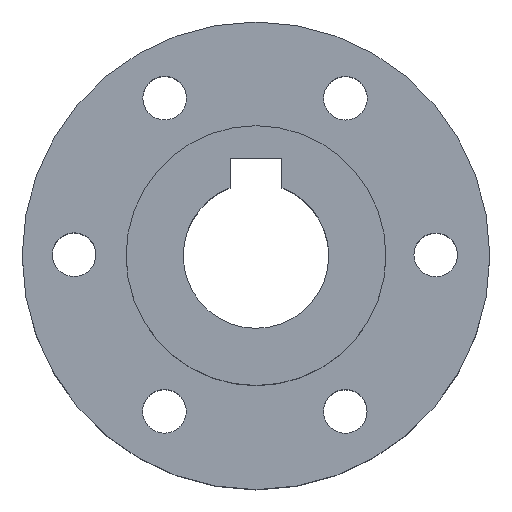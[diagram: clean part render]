
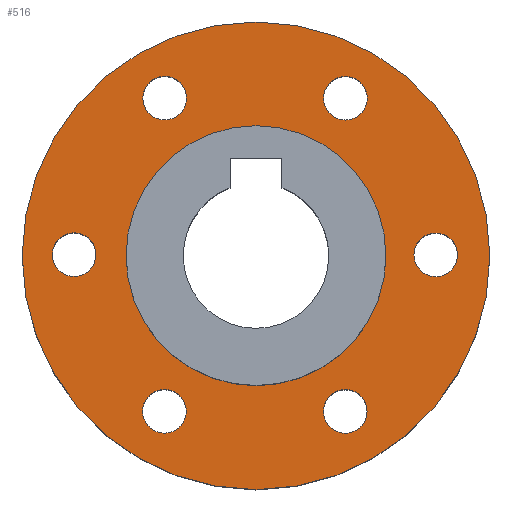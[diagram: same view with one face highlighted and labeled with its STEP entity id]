
A CAD part, top view. The second image highlights one B-rep face of the part: STEP entity #516.
In plain terms, the highlighted planar face has unit normal (0, 0, 1).
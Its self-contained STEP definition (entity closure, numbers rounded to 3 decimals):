
#288=CARTESIAN_POINT('',(35.6,88.9,19.5));
#289=VERTEX_POINT('',#288);
#313=CARTESIAN_POINT('',(60.6,88.9,19.5));
#314=VERTEX_POINT('',#313);
#315=CARTESIAN_POINT('',(48.1,88.9,19.5));
#316=DIRECTION('',(0.,0.,1.));
#317=DIRECTION('',(1.,0.,-0.));
#318=AXIS2_PLACEMENT_3D('',#315,#316,#317);
#319=CIRCLE('',#318,12.5);
#320=EDGE_CURVE('',#289,#314,#319,.T.);
#322=CARTESIAN_POINT('',(48.1,88.9,19.5));
#323=DIRECTION('',(0.,0.,1.));
#324=DIRECTION('',(1.,0.,-0.));
#325=AXIS2_PLACEMENT_3D('',#322,#323,#324);
#326=CIRCLE('',#325,12.5);
#327=EDGE_CURVE('',#314,#289,#326,.T.);
#339=CARTESIAN_POINT('',(25.6,88.9,19.5));
#340=VERTEX_POINT('',#339);
#347=CARTESIAN_POINT('',(70.6,88.9,19.5));
#348=VERTEX_POINT('',#347);
#349=CARTESIAN_POINT('',(48.1,88.9,19.5));
#350=DIRECTION('',(0.,0.,1.));
#351=DIRECTION('',(1.,0.,-0.));
#352=AXIS2_PLACEMENT_3D('',#349,#350,#351);
#353=CIRCLE('',#352,22.5);
#354=EDGE_CURVE('',#348,#340,#353,.T.);
#356=CARTESIAN_POINT('',(48.1,88.9,19.5));
#357=DIRECTION('',(0.,0.,1.));
#358=DIRECTION('',(1.,0.,-0.));
#359=AXIS2_PLACEMENT_3D('',#356,#357,#358);
#360=CIRCLE('',#359,22.5);
#361=EDGE_CURVE('',#340,#348,#360,.T.);
#383=CARTESIAN_POINT('',(48.1,88.9,19.5));
#384=DIRECTION('',(0.,0.,1.));
#385=DIRECTION('',(1.,0.,0.));
#386=AXIS2_PLACEMENT_3D('',#383,#384,#385);
#387=PLANE('',#386);
#388=CARTESIAN_POINT('',(32.7,89.01,19.5));
#389=VERTEX_POINT('',#388);
#390=CARTESIAN_POINT('',(28.5,89.01,19.5));
#391=VERTEX_POINT('',#390);
#392=CARTESIAN_POINT('',(30.6,89.01,19.5));
#393=DIRECTION('',(-0.,-0.,-1.));
#394=DIRECTION('',(1.,0.,-0.));
#395=AXIS2_PLACEMENT_3D('',#392,#393,#394);
#396=CIRCLE('',#395,2.1);
#397=EDGE_CURVE('',#389,#391,#396,.T.);
#398=ORIENTED_EDGE('',*,*,#397,.T.);
#399=CARTESIAN_POINT('',(30.6,89.01,19.5));
#400=DIRECTION('',(-0.,-0.,-1.));
#401=DIRECTION('',(1.,0.,-0.));
#402=AXIS2_PLACEMENT_3D('',#399,#400,#401);
#403=CIRCLE('',#402,2.1);
#404=EDGE_CURVE('',#391,#389,#403,.T.);
#405=ORIENTED_EDGE('',*,*,#404,.T.);
#406=EDGE_LOOP('',(#398,#405));
#407=FACE_BOUND('',#406,.T.);
#408=CARTESIAN_POINT('',(41.408,104.073,19.5));
#409=VERTEX_POINT('',#408);
#410=CARTESIAN_POINT('',(37.208,104.073,19.5));
#411=VERTEX_POINT('',#410);
#412=CARTESIAN_POINT('',(39.308,104.073,19.5));
#413=DIRECTION('',(-0.,-0.,-1.));
#414=DIRECTION('',(1.,0.,-0.));
#415=AXIS2_PLACEMENT_3D('',#412,#413,#414);
#416=CIRCLE('',#415,2.1);
#417=EDGE_CURVE('',#409,#411,#416,.T.);
#418=ORIENTED_EDGE('',*,*,#417,.T.);
#419=CARTESIAN_POINT('',(39.308,104.073,19.5));
#420=DIRECTION('',(-0.,-0.,-1.));
#421=DIRECTION('',(1.,0.,-0.));
#422=AXIS2_PLACEMENT_3D('',#419,#420,#421);
#423=CIRCLE('',#422,2.1);
#424=EDGE_CURVE('',#411,#409,#423,.T.);
#425=ORIENTED_EDGE('',*,*,#424,.T.);
#426=EDGE_LOOP('',(#418,#425));
#427=FACE_BOUND('',#426,.T.);
#428=CARTESIAN_POINT('',(58.808,104.064,19.5));
#429=VERTEX_POINT('',#428);
#430=CARTESIAN_POINT('',(54.608,104.064,19.5));
#431=VERTEX_POINT('',#430);
#432=CARTESIAN_POINT('',(56.708,104.064,19.5));
#433=DIRECTION('',(-0.,-0.,-1.));
#434=DIRECTION('',(1.,0.,-0.));
#435=AXIS2_PLACEMENT_3D('',#432,#433,#434);
#436=CIRCLE('',#435,2.1);
#437=EDGE_CURVE('',#429,#431,#436,.T.);
#438=ORIENTED_EDGE('',*,*,#437,.T.);
#439=CARTESIAN_POINT('',(56.708,104.064,19.5));
#440=DIRECTION('',(-0.,-0.,-1.));
#441=DIRECTION('',(1.,0.,-0.));
#442=AXIS2_PLACEMENT_3D('',#439,#440,#441);
#443=CIRCLE('',#442,2.1);
#444=EDGE_CURVE('',#431,#429,#443,.T.);
#445=ORIENTED_EDGE('',*,*,#444,.T.);
#446=EDGE_LOOP('',(#438,#445));
#447=FACE_BOUND('',#446,.T.);
#448=CARTESIAN_POINT('',(67.5,88.99,19.5));
#449=VERTEX_POINT('',#448);
#450=CARTESIAN_POINT('',(63.3,88.99,19.5));
#451=VERTEX_POINT('',#450);
#452=CARTESIAN_POINT('',(65.4,88.99,19.5));
#453=DIRECTION('',(-0.,-0.,-1.));
#454=DIRECTION('',(1.,0.,-0.));
#455=AXIS2_PLACEMENT_3D('',#452,#453,#454);
#456=CIRCLE('',#455,2.1);
#457=EDGE_CURVE('',#449,#451,#456,.T.);
#458=ORIENTED_EDGE('',*,*,#457,.T.);
#459=CARTESIAN_POINT('',(65.4,88.99,19.5));
#460=DIRECTION('',(-0.,-0.,-1.));
#461=DIRECTION('',(1.,0.,-0.));
#462=AXIS2_PLACEMENT_3D('',#459,#460,#461);
#463=CIRCLE('',#462,2.1);
#464=EDGE_CURVE('',#451,#449,#463,.T.);
#465=ORIENTED_EDGE('',*,*,#464,.T.);
#466=EDGE_LOOP('',(#458,#465));
#467=FACE_BOUND('',#466,.T.);
#468=CARTESIAN_POINT('',(58.792,73.927,19.5));
#469=VERTEX_POINT('',#468);
#470=CARTESIAN_POINT('',(54.592,73.927,19.5));
#471=VERTEX_POINT('',#470);
#472=CARTESIAN_POINT('',(56.692,73.927,19.5));
#473=DIRECTION('',(-0.,-0.,-1.));
#474=DIRECTION('',(1.,0.,-0.));
#475=AXIS2_PLACEMENT_3D('',#472,#473,#474);
#476=CIRCLE('',#475,2.1);
#477=EDGE_CURVE('',#469,#471,#476,.T.);
#478=ORIENTED_EDGE('',*,*,#477,.T.);
#479=CARTESIAN_POINT('',(56.692,73.927,19.5));
#480=DIRECTION('',(-0.,-0.,-1.));
#481=DIRECTION('',(1.,0.,-0.));
#482=AXIS2_PLACEMENT_3D('',#479,#480,#481);
#483=CIRCLE('',#482,2.1);
#484=EDGE_CURVE('',#471,#469,#483,.T.);
#485=ORIENTED_EDGE('',*,*,#484,.T.);
#486=EDGE_LOOP('',(#478,#485));
#487=FACE_BOUND('',#486,.T.);
#488=CARTESIAN_POINT('',(41.392,73.936,19.5));
#489=VERTEX_POINT('',#488);
#490=CARTESIAN_POINT('',(37.192,73.936,19.5));
#491=VERTEX_POINT('',#490);
#492=CARTESIAN_POINT('',(39.292,73.936,19.5));
#493=DIRECTION('',(-0.,-0.,-1.));
#494=DIRECTION('',(1.,0.,-0.));
#495=AXIS2_PLACEMENT_3D('',#492,#493,#494);
#496=CIRCLE('',#495,2.1);
#497=EDGE_CURVE('',#489,#491,#496,.T.);
#498=ORIENTED_EDGE('',*,*,#497,.T.);
#499=CARTESIAN_POINT('',(39.292,73.936,19.5));
#500=DIRECTION('',(-0.,-0.,-1.));
#501=DIRECTION('',(1.,0.,-0.));
#502=AXIS2_PLACEMENT_3D('',#499,#500,#501);
#503=CIRCLE('',#502,2.1);
#504=EDGE_CURVE('',#491,#489,#503,.T.);
#505=ORIENTED_EDGE('',*,*,#504,.T.);
#506=EDGE_LOOP('',(#498,#505));
#507=FACE_BOUND('',#506,.T.);
#508=ORIENTED_EDGE('',*,*,#320,.F.);
#509=ORIENTED_EDGE('',*,*,#327,.F.);
#510=EDGE_LOOP('',(#508,#509));
#511=FACE_BOUND('',#510,.T.);
#512=ORIENTED_EDGE('',*,*,#354,.T.);
#513=ORIENTED_EDGE('',*,*,#361,.T.);
#514=EDGE_LOOP('',(#512,#513));
#515=FACE_BOUND('',#514,.T.);
#516=ADVANCED_FACE('',(#407,#427,#447,#467,#487,#507,#511,#515),#387,.T.);
